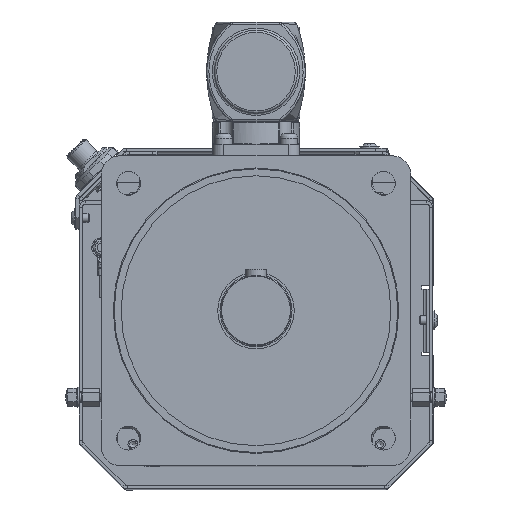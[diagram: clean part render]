
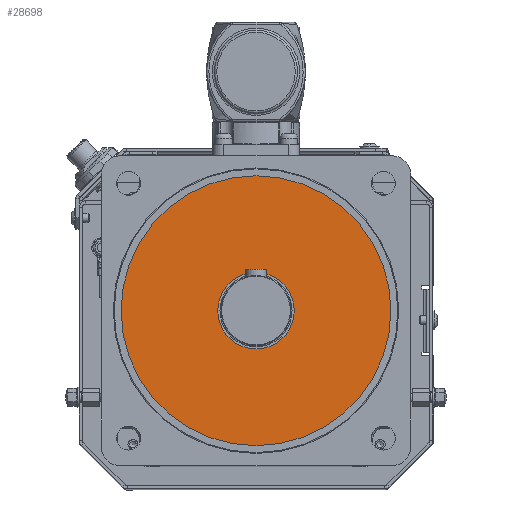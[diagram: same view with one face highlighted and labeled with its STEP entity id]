
A CAD part, top view. The second image highlights one B-rep face of the part: STEP entity #28698.
In plain terms, the highlighted planar face has unit normal (0, 0, 1).
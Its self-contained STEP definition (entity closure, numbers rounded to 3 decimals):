
#1983=PLANE('',#30646);
#2692=FACE_BOUND('',#10194,.T.);
#8445=FACE_OUTER_BOUND('',#10193,.T.);
#10193=EDGE_LOOP('',(#22199));
#10194=EDGE_LOOP('',(#22200));
#12301=CIRCLE('',#30305,17.5);
#12431=CIRCLE('',#30644,61.818);
#13773=VERTEX_POINT('',#43972);
#14181=VERTEX_POINT('',#45988);
#16528=EDGE_CURVE('',#13773,#13773,#12301,.T.);
#17173=EDGE_CURVE('',#14181,#14181,#12431,.T.);
#22199=ORIENTED_EDGE('',*,*,#17173,.T.);
#22200=ORIENTED_EDGE('',*,*,#16528,.T.);
#28698=ADVANCED_FACE('',(#8445,#2692),#1983,.F.);
#30305=AXIS2_PLACEMENT_3D('',#43973,#33703,#33704);
#30644=AXIS2_PLACEMENT_3D('',#45989,#34826,#34827);
#30646=AXIS2_PLACEMENT_3D('',#45992,#34830,#34831);
#33703=DIRECTION('center_axis',(0.,0.,-1.));
#33704=DIRECTION('ref_axis',(0.,1.,0.));
#34826=DIRECTION('center_axis',(0.,0.,1.));
#34827=DIRECTION('ref_axis',(-1.,0.,0.));
#34830=DIRECTION('center_axis',(0.,0.,-1.));
#34831=DIRECTION('ref_axis',(-1.,0.,0.));
#43972=CARTESIAN_POINT('',(0.,17.5,-0.5));
#43973=CARTESIAN_POINT('Origin',(0.,0.,-0.5));
#45988=CARTESIAN_POINT('',(61.818,0.,-0.5));
#45989=CARTESIAN_POINT('Origin',(0.,0.,-0.5));
#45992=CARTESIAN_POINT('Origin',(0.,0.,-0.5));
